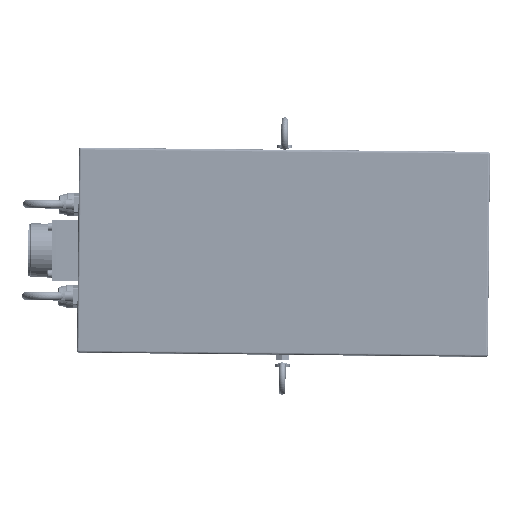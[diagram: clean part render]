
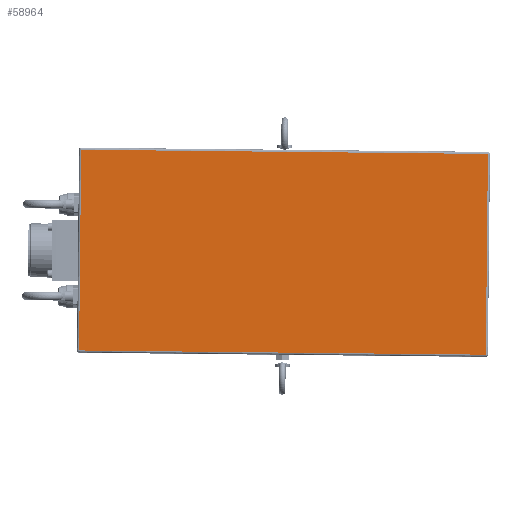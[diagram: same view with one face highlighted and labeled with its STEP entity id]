
A CAD part, top view. The second image highlights one B-rep face of the part: STEP entity #58964.
In plain terms, the highlighted planar face has unit normal (0, 0, 1).
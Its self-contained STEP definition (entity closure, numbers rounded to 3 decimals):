
#58925=CARTESIAN_POINT('',(-101.478,98.56,142.52));
#58926=DIRECTION('',(0.01,1.,0.));
#58927=DIRECTION('',(0.,0.,1.));
#58928=AXIS2_PLACEMENT_3D('',#58925,#58927,#58926);
#58929=PLANE('',#58928);
#58930=CARTESIAN_POINT('',(89.01,-95.931,142.52));
#58931=VERTEX_POINT('',#58930);
#58932=CARTESIAN_POINT('',(90.986,94.059,142.52));
#58933=VERTEX_POINT('',#58932);
#58934=CARTESIAN_POINT('',(89.01,-95.931,142.52));
#58935=DIRECTION('',(0.01,1.,0.));
#58936=VECTOR('',#58935,190.);
#58937=LINE('',#58934,#58936);
#58938=EDGE_CURVE('',#58931,#58933,#58937,.T.);
#58939=ORIENTED_EDGE('E103',*,*,#58938,.T.);
#58940=CARTESIAN_POINT('',(-293.994,98.062,142.52));
#58941=VERTEX_POINT('',#58940);
#58942=CARTESIAN_POINT('',(90.986,94.059,142.52));
#58943=DIRECTION('',(-1.,0.01,0.));
#58944=VECTOR('',#58943,385.);
#58945=LINE('',#58942,#58944);
#58946=EDGE_CURVE('',#58933,#58941,#58945,.T.);
#58947=ORIENTED_EDGE('E108',*,*,#58946,.T.);
#58948=CARTESIAN_POINT('',(-295.969,-91.928,142.52));
#58949=VERTEX_POINT('',#58948);
#58950=CARTESIAN_POINT('',(-293.994,98.062,142.52));
#58951=DIRECTION('',(-0.01,-1.,0.));
#58952=VECTOR('',#58951,190.);
#58953=LINE('',#58950,#58952);
#58954=EDGE_CURVE('',#58941,#58949,#58953,.T.);
#58955=ORIENTED_EDGE('E110',*,*,#58954,.T.);
#58956=CARTESIAN_POINT('',(-295.969,-91.928,142.52));
#58957=DIRECTION('',(1.,-0.01,0.));
#58958=VECTOR('',#58957,385.);
#58959=LINE('',#58956,#58958);
#58960=EDGE_CURVE('',#58949,#58931,#58959,.T.);
#58961=ORIENTED_EDGE('E106',*,*,#58960,.T.);
#58962=EDGE_LOOP('',(#58939,#58947,#58955,#58961));
#58963=FACE_OUTER_BOUND('',#58962,.T.);
#58964=ADVANCED_FACE('F8',(#58963),#58929,.T.);
